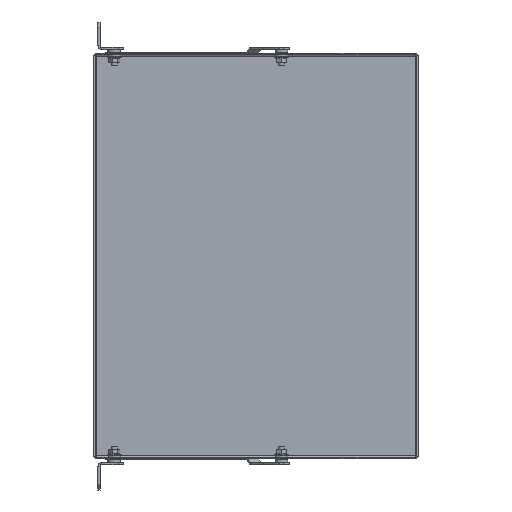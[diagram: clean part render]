
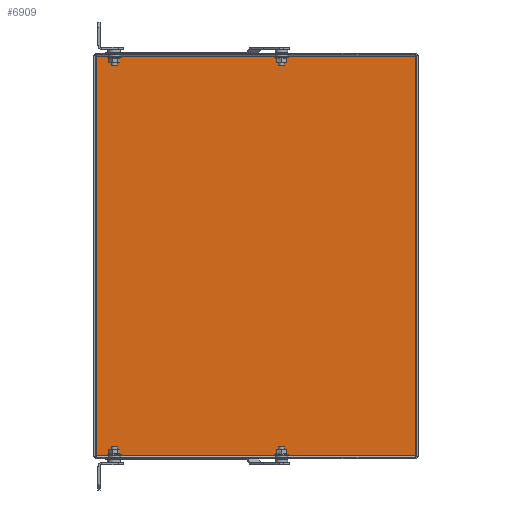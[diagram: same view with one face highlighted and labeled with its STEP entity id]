
A CAD part, front view. The second image highlights one B-rep face of the part: STEP entity #6909.
In plain terms, the highlighted planar face has unit normal (0.001, -1, 0).
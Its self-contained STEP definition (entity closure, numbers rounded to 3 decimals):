
#1117 = FACE_OUTER_BOUND ( 'NONE', #9200, .T. ) ;
#1829 = AXIS2_PLACEMENT_3D ( 'NONE', #2157, #2168, #2169 ) ;
#2157 = CARTESIAN_POINT ( 'NONE',  ( 315.982, -68.608, 200. ) ) ;
#2166 = PLANE ( 'NONE',  #1829 ) ;
#2168 = DIRECTION ( 'NONE',  ( -0.001, 1., 0. ) ) ;
#2169 = DIRECTION ( 'NONE',  ( 0., 0., -1. ) ) ;
#3103 = CARTESIAN_POINT ( 'NONE',  ( 312.982, -68.611, 197.1 ) ) ;
#3111 = CARTESIAN_POINT ( 'NONE',  ( -1.018, -68.917, -197.1 ) ) ;
#3112 = CARTESIAN_POINT ( 'NONE',  ( 312.982, -68.611, -197.1 ) ) ;
#3223 = CARTESIAN_POINT ( 'NONE',  ( -1.018, -68.917, 197.1 ) ) ;
#4057 = LINE ( 'NONE', #4698, #4075 ) ;
#4070 = LINE ( 'NONE', #4712, #4073 ) ;
#4072 = LINE ( 'NONE', #4702, #4077 ) ;
#4073 = VECTOR ( 'NONE', #4714, 1000. ) ;
#4074 = LINE ( 'NONE', #4713, #4079 ) ;
#4075 = VECTOR ( 'NONE', #4715, 1000. ) ;
#4077 = VECTOR ( 'NONE', #4716, 1000. ) ;
#4079 = VECTOR ( 'NONE', #4717, 1000. ) ;
#4698 = CARTESIAN_POINT ( 'NONE',  ( -1.018, -68.917, -197.1 ) ) ;
#4702 = CARTESIAN_POINT ( 'NONE',  ( 313.082, -68.611, -197.1 ) ) ;
#4712 = CARTESIAN_POINT ( 'NONE',  ( -4.018, -68.919, 197.1 ) ) ;
#4713 = CARTESIAN_POINT ( 'NONE',  ( 312.982, -68.611, 197.1 ) ) ;
#4714 = DIRECTION ( 'NONE',  ( 1., 0.001, 0. ) ) ;
#4715 = DIRECTION ( 'NONE',  ( 0., 0., -1. ) ) ;
#4716 = DIRECTION ( 'NONE',  ( -1., -0.001, 0. ) ) ;
#4717 = DIRECTION ( 'NONE',  ( 0., 0., 1. ) ) ;
#6909 = ADVANCED_FACE ( 'NONE', ( #1117 ), #2166, .F. ) ;
#7683 = VERTEX_POINT ( 'NONE', #3103 ) ;
#7691 = VERTEX_POINT ( 'NONE', #3111 ) ;
#7692 = VERTEX_POINT ( 'NONE', #3112 ) ;
#7804 = VERTEX_POINT ( 'NONE', #3223 ) ;
#8899 = EDGE_CURVE ( 'NONE', #7804, #7683, #4070, .T. ) ;
#8900 = EDGE_CURVE ( 'NONE', #7804, #7691, #4057, .T. ) ;
#8901 = EDGE_CURVE ( 'NONE', #7692, #7691, #4072, .T. ) ;
#8902 = EDGE_CURVE ( 'NONE', #7692, #7683, #4074, .T. ) ;
#9200 = EDGE_LOOP ( 'NONE', ( #9336, #9337, #9338, #9339 ) ) ;
#9336 = ORIENTED_EDGE ( 'NONE', *, *, #8899, .F. ) ;
#9337 = ORIENTED_EDGE ( 'NONE', *, *, #8900, .T. ) ;
#9338 = ORIENTED_EDGE ( 'NONE', *, *, #8901, .F. ) ;
#9339 = ORIENTED_EDGE ( 'NONE', *, *, #8902, .T. ) ;
